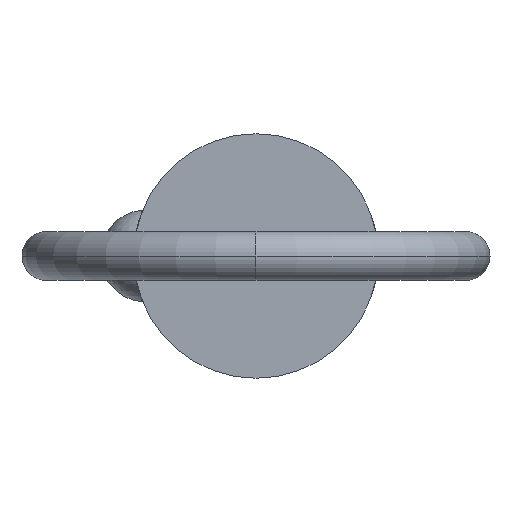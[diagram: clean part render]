
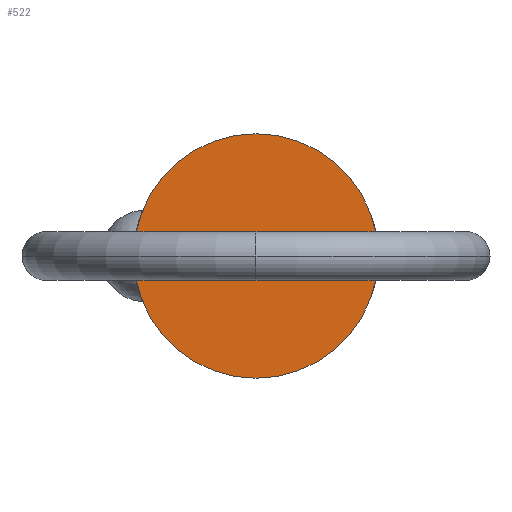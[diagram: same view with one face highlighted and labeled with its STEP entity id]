
A CAD part, left-side view. The second image highlights one B-rep face of the part: STEP entity #522.
In plain terms, the highlighted planar face has unit normal (-1, 0, 0).
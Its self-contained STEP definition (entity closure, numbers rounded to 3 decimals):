
#18 = DIRECTION ( 'NONE',  ( 0., 0., 1. ) ) ;
#19 = AXIS2_PLACEMENT_3D ( 'NONE', #762, #535, #131 ) ;
#23 = AXIS2_PLACEMENT_3D ( 'NONE', #37, #327, #124 ) ;
#37 = CARTESIAN_POINT ( 'NONE',  ( 0., 0., 0. ) ) ;
#97 = FACE_OUTER_BOUND ( 'NONE', #232, .T. ) ;
#124 = DIRECTION ( 'NONE',  ( 0., 0., -1. ) ) ;
#128 = EDGE_CURVE ( 'NONE', #767, #706, #423, .T. ) ;
#131 = DIRECTION ( 'NONE',  ( 0., 0., -1. ) ) ;
#232 = EDGE_LOOP ( 'NONE', ( #368, #566 ) ) ;
#263 = CARTESIAN_POINT ( 'NONE',  ( 0., 0., -11.115 ) ) ;
#300 = AXIS2_PLACEMENT_3D ( 'NONE', #379, #651, #18 ) ;
#327 = DIRECTION ( 'NONE',  ( 1., 0., 0. ) ) ;
#368 = ORIENTED_EDGE ( 'NONE', *, *, #557, .F. ) ;
#379 = CARTESIAN_POINT ( 'NONE',  ( 0., 0., 0. ) ) ;
#423 = CIRCLE ( 'NONE', #19, 11.115 ) ;
#522 = ADVANCED_FACE ( 'NONE', ( #97 ), #808, .T. ) ;
#535 = DIRECTION ( 'NONE',  ( 1., 0., 0. ) ) ;
#557 = EDGE_CURVE ( 'NONE', #706, #767, #913, .T. ) ;
#566 = ORIENTED_EDGE ( 'NONE', *, *, #128, .F. ) ;
#651 = DIRECTION ( 'NONE',  ( -1., 0., 0. ) ) ;
#706 = VERTEX_POINT ( 'NONE', #263 ) ;
#762 = CARTESIAN_POINT ( 'NONE',  ( 0., 0., 0. ) ) ;
#767 = VERTEX_POINT ( 'NONE', #822 ) ;
#808 = PLANE ( 'NONE',  #300 ) ;
#822 = CARTESIAN_POINT ( 'NONE',  ( 0., 0., 11.115 ) ) ;
#913 = CIRCLE ( 'NONE', #23, 11.115 ) ;
